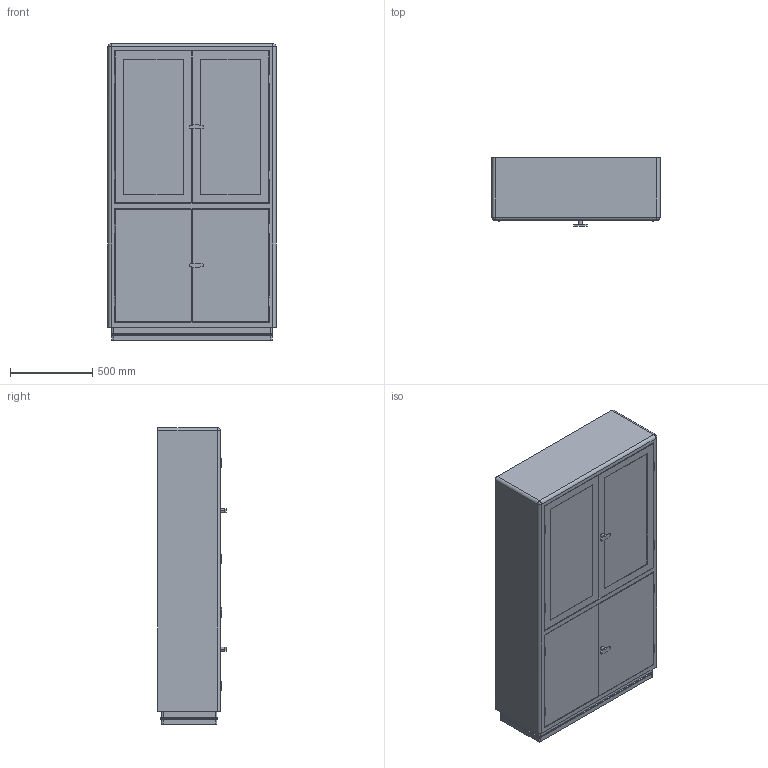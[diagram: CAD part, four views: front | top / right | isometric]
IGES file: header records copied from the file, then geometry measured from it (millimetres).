
Start section: Comment
Global section: file name: SB424-4.igs; native system:  By UGS Corp.; preprocessor: XPlus GENERIC/IGES 3.0; author: Author; organization: Title; date: 20200305.151328; units: inch
Bounding box: 1020 x 415 x 1800 mm (x, y, z)
Surface area: 6092554.8 mm2 (no closed solid volume)
Topology: 0 solids, 0 shells, 152 faces, 656 edges, 654 vertices
Faces by surface type: bspline 152
